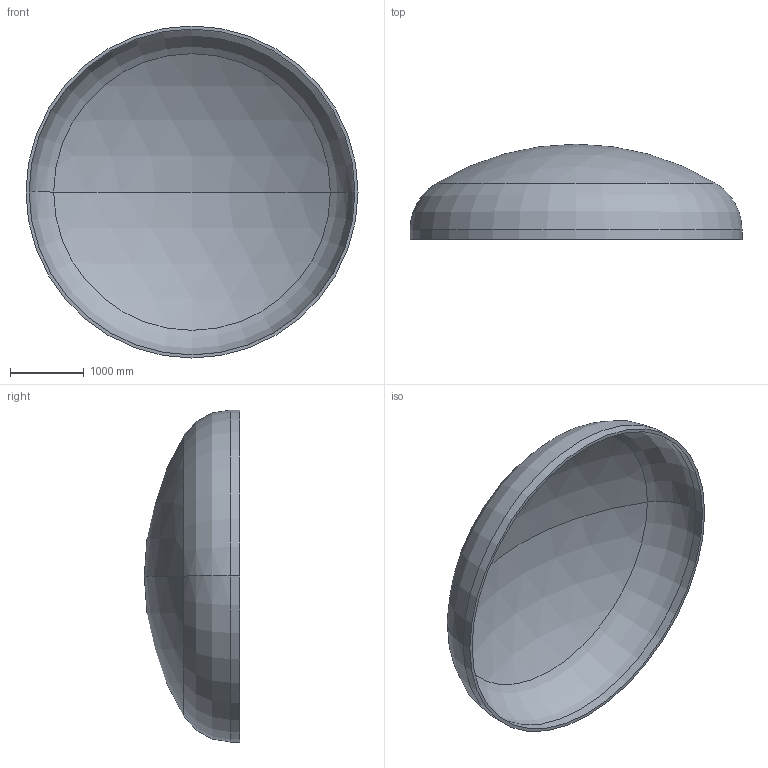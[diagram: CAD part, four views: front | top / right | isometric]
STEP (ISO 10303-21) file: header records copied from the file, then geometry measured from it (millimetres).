
FILE_DESCRIPTION (( 'STEP AP203' ), '1' );
FILE_NAME ('DIN 28013 Korbbogenform_-_Boden DIN 28013 - 4500 x 130 - I - s=42.step', '2016-07-01T23:25:47', ( '' ), ( '' ), 'SwSTEP 2.0', 'SolidWorks 2013', '' );
FILE_SCHEMA (( 'CONFIG_CONTROL_DESIGN' ));
Length unit declared in the file: millimetre
Products named in the file (1): DIN 28013 Korbbogenform_-_Boden DIN 28013 - 4500 x 130 - I - s=42
Bounding box: 4500 x 1292.11 x 4500 mm (x, y, z)
Volume: 990781812.5 mm3; surface area: 47771982.6 mm2
Topology: 1 solids, 1 shells, 13 faces, 24 edges, 14 vertices
Faces by surface type: torus 4, cylinder 4, sphere 4, plane 1
Entity records: 407 total; most frequent: DIRECTION 72, CARTESIAN_POINT 52, ORIENTED_EDGE 48, AXIS2_PLACEMENT_3D 34, EDGE_CURVE 24, CIRCLE 20, VERTEX_POINT 14, EDGE_LOOP 14
